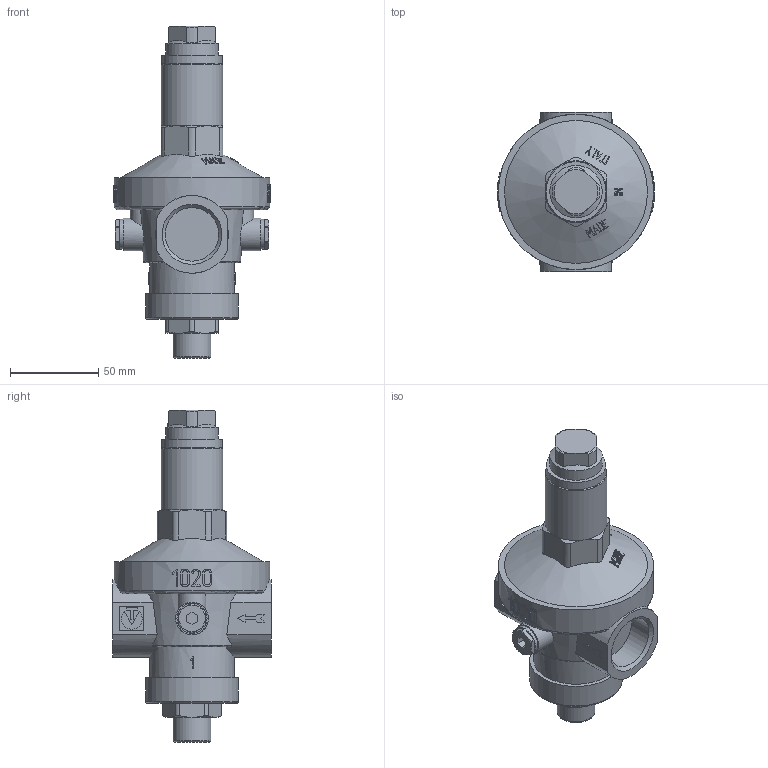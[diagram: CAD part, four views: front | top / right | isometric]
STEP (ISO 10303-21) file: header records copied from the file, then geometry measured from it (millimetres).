
FILE_DESCRIPTION(('STEP AP242'), '1');
FILE_NAME('VT.085.N.0607', '', ('UNSPECIFIED'), ('UNSPECIFIED'), 'C3D Converter', 'C3D Toolkit', '');
FILE_SCHEMA(('AP242_MANAGED_MODEL_BASED_3D_ENGINEERING_MIM_LF { 1 0 10303 442 1 1 4 }'));
Length unit declared in the file: millimetre
Bounding box: 89 x 90 x 188 mm (x, y, z)
Volume: 397859 mm3; surface area: 46103.1 mm2
Topology: 1 solids, 1 shells, 665 faces, 1833 edges, 1217 vertices
Faces by surface type: plane 281, extrusion 279, cylinder 50, cone 49, torus 6
Full cylindrical faces by diameter (mm): 17 x2, 18.5 x2, 21.5 x1, 29.7 x1, 30.292 x2, 34 x1, 35 x1, 48 x1, 52.5 x1, 88 x1
Entity records: 34548 total; most frequent: CARTESIAN_POINT 19230, ORIENTED_EDGE 3604, DIRECTION 2166, EDGE_CURVE 1802, VERTEX_POINT 1205, B_SPLINE_CURVE_WITH_KNOTS 1104, VECTOR 1048, LINE 769
